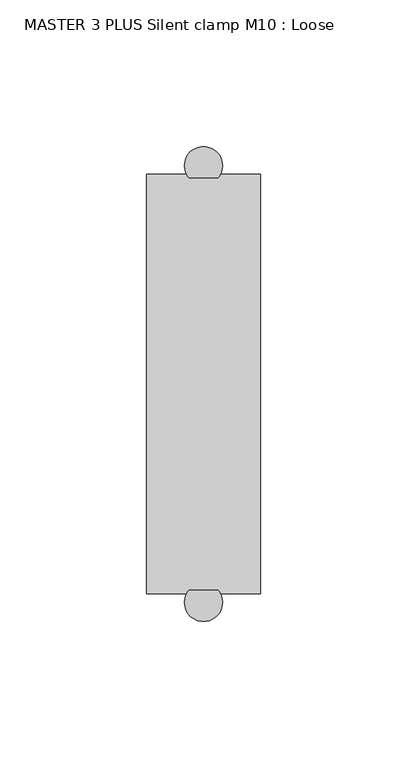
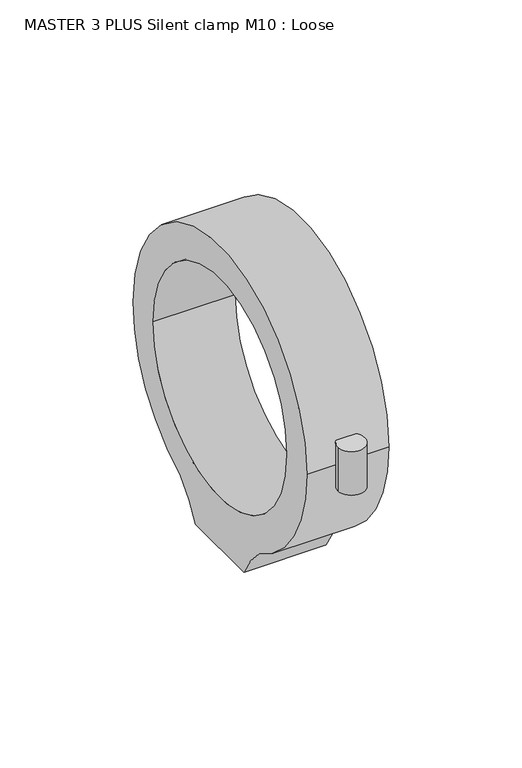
"""IFC4 building model written with IfcOpenShell, lengths in millimetres: valve geometry, MASTER 3 PLUS Silent clamp M10 : Loose."""

import ifcopenshell
import ifcopenshell.guid

model = None  # the IFC model being written
_history = None  # IfcOwnerHistory: only IFC2X3 demands one
_inside = {}  # id of a spatial element -> (the spatial element, [elements in it])
_under = {}  # id of a project, library or spatial element -> (it, [spatial elements below it])
_declared = {}  # id of a project -> (the project, [libraries it declares])
_typed = {}  # id of a type object -> (the type object, [elements of that type])
_made_of = {}  # id of a material, layer set ... -> (it, [elements and type objects made of it])


def new_model(schema):
    """Start an empty IFC model of exactly this schema.

    Asked for "IFC4X3", IfcOpenShell would pick the latest addendum, in which some entities
    have other attributes; the version numbers below select the first issue.
    IFC2X3 requires an IfcOwnerHistory on every rooted entity: one is made here for all.
    """
    global model, _history
    if schema == "IFC4X3":
        model = ifcopenshell.file(schema_version=(4, 3, 0, 0))
    else:
        model = ifcopenshell.file(schema=schema)
    _inside.clear()
    _under.clear()
    _declared.clear()
    _typed.clear()
    _made_of.clear()
    _history = None
    if model.schema == "IFC2X3":
        org = make("IfcOrganization", Name="unknown")
        user = make(
            "IfcPersonAndOrganization",
            ThePerson=make("IfcPerson", FamilyName="unknown"),
            TheOrganization=org,
        )
        app = make(
            "IfcApplication",
            ApplicationDeveloper=org,
            Version="unknown",
            ApplicationFullName="unknown",
            ApplicationIdentifier="unknown",
        )
        _history = make(
            "IfcOwnerHistory",
            OwningUser=user,
            OwningApplication=app,
            ChangeAction="ADDED",
            CreationDate=0,
        )
    return model


def make(cls, **values):
    """One entity of the class cls with the attributes given. An attribute that is None is left unset."""
    return model.create_entity(
        cls, **{name: value for name, value in values.items() if value is not None}
    )


def rooted(cls, **values):
    """An entity with a GlobalId (a new one), such as an element, a storey or a relation."""
    return make(cls, GlobalId=ifcopenshell.guid.new(), OwnerHistory=_history, **values)


def si_unit(unit_type, name, prefix=None):
    """IfcSIUnit, for example si_unit("LENGTHUNIT", "METRE", prefix="MILLI")."""
    return make("IfcSIUnit", UnitType=unit_type, Prefix=prefix, Name=name)


def assignment(units):
    """IfcUnitAssignment: the units of a project."""
    return None if units is None else make("IfcUnitAssignment", Units=units)


def point(xyz):
    """IfcCartesianPoint."""
    return None if xyz is None else make("IfcCartesianPoint", Coordinates=xyz)


def direction(xyz):
    """IfcDirection."""
    return None if xyz is None else make("IfcDirection", DirectionRatios=xyz)


def frame(location, z_axis=None, x_axis=None):
    """IfcAxis2Placement3D, a coordinate frame: its origin and axes. An axis left out is left unset."""
    return make(
        "IfcAxis2Placement3D",
        Location=point(location),
        Axis=direction(z_axis),
        RefDirection=direction(x_axis),
    )


def frame_2d(location, x_axis=None):
    """IfcAxis2Placement2D, a coordinate frame in the plane: its origin and x axis."""
    return make(
        "IfcAxis2Placement2D", Location=point(location), RefDirection=direction(x_axis)
    )


def origin():
    """The frame at (0, 0, 0) with its axes left unset."""
    return frame((0.0, 0.0, 0.0))


def origin_2d():
    """The frame at (0, 0) in the plane with its x axis left unset."""
    return frame_2d((0.0, 0.0))


def place(relative_to, where):
    """IfcLocalPlacement: puts the frame where relative to a parent placement (None: the world)."""
    return make(
        "IfcLocalPlacement", PlacementRelTo=relative_to, RelativePlacement=where
    )


def context(
    kind, dimensions, precision=None, world=None, true_north=None, identifier=None
):
    """IfcGeometricRepresentationContext, for example the 3D "Model" context."""
    return make(
        "IfcGeometricRepresentationContext",
        ContextIdentifier=identifier,
        ContextType=kind,
        CoordinateSpaceDimension=dimensions,
        Precision=precision,
        WorldCoordinateSystem=world,
        TrueNorth=true_north,
    )


def project(units=None, contexts=None):
    """IfcProject with its units and contexts."""
    return rooted(
        "IfcProject",
        Name="project",
        RepresentationContexts=contexts,
        UnitsInContext=assignment(units),
    )


def spatial(cls, under=None, at=None, **own):
    """A site, building, storey or space (cls), placed at a placement, below another one or the project."""
    s = rooted(cls, ObjectPlacement=at, **own)
    if under is not None:
        _under.setdefault(under.id(), (under, []))[1].append(s)
    return s


def polyline(points):
    """IfcPolyline through the points."""
    return make("IfcPolyline", Points=[point(p) for p in points])


def circle_curve(where, radius):
    """IfcCircle in the frame where."""
    return make("IfcCircle", Position=where, Radius=radius)


def trimmed(basis, trim1, trim2, sense, master):
    """IfcTrimmedCurve: the piece of a basis curve between two trims."""
    return make(
        "IfcTrimmedCurve",
        BasisCurve=basis,
        Trim1=trim1,
        Trim2=trim2,
        SenseAgreement=sense,
        MasterRepresentation=master,
    )


def segment(curve, same_sense, transition):
    """IfcCompositeCurveSegment."""
    return make(
        "IfcCompositeCurveSegment",
        Transition=transition,
        SameSense=same_sense,
        ParentCurve=curve,
    )


def composite_curve(segments, self_intersect=None):
    """IfcCompositeCurve: segments joined end to end."""
    return make("IfcCompositeCurve", Segments=segments, SelfIntersect=self_intersect)


def outline(outer, holes=None, kind="AREA"):
    """IfcArbitraryClosedProfileDef: a profile drawn as a closed curve; with holes, ...WithVoids."""
    if holes is None:
        return make("IfcArbitraryClosedProfileDef", ProfileType=kind, OuterCurve=outer)
    return make(
        "IfcArbitraryProfileDefWithVoids",
        ProfileType=kind,
        OuterCurve=outer,
        InnerCurves=holes,
    )


def extrude(swept, where, along, depth):
    """IfcExtrudedAreaSolid: the profile swept, set in the frame where, extruded along a direction by depth."""
    return make(
        "IfcExtrudedAreaSolid",
        SweptArea=swept,
        Position=where,
        ExtrudedDirection=direction(along),
        Depth=depth,
    )


def shape(context_of_items, identifier, shape_type, items):
    """IfcShapeRepresentation: the items that make up one representation, for example the "Body"."""
    return make(
        "IfcShapeRepresentation",
        ContextOfItems=context_of_items,
        RepresentationIdentifier=identifier,
        RepresentationType=shape_type,
        Items=items,
    )


def source(mapping_origin, context_of_items, identifier, shape_type, items):
    """IfcRepresentationMap: a shape defined once, which mapped items show again and again."""
    return make(
        "IfcRepresentationMap",
        MappingOrigin=mapping_origin,
        MappedRepresentation=shape(context_of_items, identifier, shape_type, items),
    )


def transform(
    local_origin,
    x_axis=None,
    y_axis=None,
    z_axis=None,
    scale=None,
    scale2=None,
    scale3=None,
    uniform=True,
):
    """IfcCartesianTransformationOperator3D, or its non-uniform kind. x_axis, y_axis, z_axis: its Axis1, 2, 3."""
    if uniform:
        return make(
            "IfcCartesianTransformationOperator3D",
            Axis1=direction(x_axis),
            Axis2=direction(y_axis),
            LocalOrigin=point(local_origin),
            Scale=scale,
            Axis3=direction(z_axis),
        )
    return make(
        "IfcCartesianTransformationOperator3DnonUniform",
        Axis1=direction(x_axis),
        Axis2=direction(y_axis),
        LocalOrigin=point(local_origin),
        Scale=scale,
        Axis3=direction(z_axis),
        Scale2=scale2,
        Scale3=scale3,
    )


def mapped(mapping_source, mapping_target):
    """IfcMappedItem: shows the shape of a source again, moved by a transform."""
    return make(
        "IfcMappedItem", MappingSource=mapping_source, MappingTarget=mapping_target
    )


def made_of(thing, what):
    """Note that an element or type object is made of a material, layer set ...; save() writes the relation."""
    if what is not None:
        _made_of.setdefault(what.id(), (what, []))[1].append(thing)
    return thing


def element(
    cls,
    number,
    at=None,
    inside=None,
    cuts=None,
    type_object=None,
    material=None,
    context=None,
    identifier="Body",
    shape_type=None,
    held_by="IfcProductDefinitionShape",
    body=None,
    shapes=None,
    **own,
):
    """One element of the class cls, such as IfcWall. Its Tag is "e" and its number.

    at: its placement. inside: the storey or other place that contains it. cuts: it is an
    opening in that element (IfcRelVoidsElement). A single representation is given by context,
    identifier, shape_type and body (its items); several are given by shapes. held_by: the class
    of the entity that holds the representations. save() writes the other relations.
    """
    e = rooted(cls, Tag="e%d" % number, ObjectPlacement=at, **own)
    if body is not None:
        shapes = [shape(context, identifier, shape_type, body)]
    if shapes is not None:
        e.Representation = make(held_by, Representations=shapes)
    if inside is not None:
        _inside.setdefault(inside.id(), (inside, []))[1].append(e)
    if cuts is not None:
        rooted(
            "IfcRelVoidsElement", RelatingBuildingElement=cuts, RelatedOpeningElement=e
        )
    if type_object is not None:
        _typed.setdefault(type_object.id(), (type_object, []))[1].append(e)
    return made_of(e, material)


def aggregate(whole, parts):
    """IfcRelAggregates: a whole, such as a stair, and the parts it consists of."""
    return rooted("IfcRelAggregates", RelatingObject=whole, RelatedObjects=parts)


def save(model, path):
    """Write the relations noted so far, then the file.

    IfcRelAggregates (storeys below a building ...), IfcRelContainedInSpatialStructure (elements
    in a storey), IfcRelDefinesByType, IfcRelAssociatesMaterial and IfcRelDeclares: one each for
    every whole, place, type object, material and project.
    """
    for whole, parts in _under.values():
        aggregate(whole, parts)
    for where, things in _inside.values():
        rooted(
            "IfcRelContainedInSpatialStructure",
            RelatedElements=things,
            RelatingStructure=where,
        )
    for kind, things in _typed.values():
        rooted("IfcRelDefinesByType", RelatedObjects=things, RelatingType=kind)
    for what, things in _made_of.values():
        rooted("IfcRelAssociatesMaterial", RelatedObjects=things, RelatingMaterial=what)
    for by, libraries in _declared.values():
        rooted("IfcRelDeclares", RelatingContext=by, RelatedDefinitions=libraries)
    model.write(path)


def master_3_plus_silent_clamp_m10_loose_7b94a6a7(model_context):
    return source(origin(), model_context, "Body", "SweptSolid", [
        extrude(outline(composite_curve([segment(trimmed(circle_curve(frame_2d((19.5, 74.5)), 6.5), [point((13.0, 74.5))], [point((26.0, 74.5))], False, "CARTESIAN"), True, "CONTINUOUS"), segment(trimmed(circle_curve(frame_2d((19.5, 74.5)), 6.5), [point((26.0, 74.5))], [point((13.0, 74.5))], False, "CARTESIAN"), True, "CONTINUOUS")], self_intersect=False)), frame((0.0, 0.0, -11.0), z_axis=(0.0, 0.0, 1.0), x_axis=(1.0, 0.0, 0.0)), (0.0, 0.0, 1.0), 22.0),
        extrude(outline(composite_curve([segment(trimmed(circle_curve(frame_2d((19.5, -74.5)), 6.5), [point((13.0, -74.5))], [point((26.0, -74.5))], False, "CARTESIAN"), True, "CONTINUOUS"), segment(trimmed(circle_curve(frame_2d((19.5, -74.5)), 6.5), [point((26.0, -74.5))], [point((13.0, -74.5))], False, "CARTESIAN"), True, "CONTINUOUS")], self_intersect=False)), frame((0.0, 0.0, -11.0), z_axis=(0.0, 0.0, 1.0), x_axis=(1.0, 0.0, 0.0)), (0.0, 0.0, 1.0), 22.0),
        extrude(outline(composite_curve([segment(trimmed(circle_curve(origin_2d(), 71.5), [point((-71.5, 0.0))], [point((71.5, 0.0))], False, "CARTESIAN"), True, "CONTINUOUS"), segment(trimmed(circle_curve(origin_2d(), 71.5), [point((71.5, 0.0))], [point((32.3195928, -63.7784754))], False, "CARTESIAN"), True, "CONTINUOUS"), segment(trimmed(circle_curve(frame_2d((73.3561953, -107.5505813)), 60.0), [point((32.3195928, -63.7784754))], [point((19.8, -80.5))], True, "CARTESIAN"), True, "CONTINUOUS"), segment(polyline([(19.8, -80.5), (-19.8, -80.5)]), True, "CONTINUOUS"), segment(trimmed(circle_curve(frame_2d((-73.3561953, -107.5505813)), 60.0), [point((-19.8, -80.5))], [point((-32.3195928, -63.7784754))], True, "CARTESIAN"), True, "CONTINUOUS"), segment(trimmed(circle_curve(origin_2d(), 71.5), [point((-32.3195928, -63.7784754))], [point((-71.5, 0.0))], False, "CARTESIAN"), True, "CONTINUOUS")], self_intersect=False), holes=[composite_curve([segment(trimmed(circle_curve(origin_2d(), 55.0), [point((-55.0, 0.0))], [point((55.0, 0.0))], True, "CARTESIAN"), True, "CONTINUOUS"), segment(trimmed(circle_curve(origin_2d(), 55.0), [point((55.0, 0.0))], [point((-55.0, 0.0))], True, "CARTESIAN"), True, "CONTINUOUS")], self_intersect=False)]), frame((0.0, 0.0, 0.0), z_axis=(1.0, 0.0, 0.0), x_axis=(0.0, 1.0, 0.0)), (0.0, 0.0, 1.0), 39.0),
    ])


if __name__ == "__main__":
    model = new_model("IFC4")
    model_context = context("Model", 3, world=origin())
    ifc_project = project(units=[si_unit("LENGTHUNIT", "METRE", prefix="MILLI")], contexts=[model_context])
    site = spatial("IfcSite", under=ifc_project)
    building = spatial("IfcBuilding", under=site)
    placement = place(None, origin())
    master_3_plus_silent_clamp_m10_loose_shape = master_3_plus_silent_clamp_m10_loose_7b94a6a7(model_context)
    element("IfcValve", 1, ObjectType="MASTER 3 PLUS Silent clamp M10 : Loose", at=placement, inside=building, context=model_context, shape_type="MappedRepresentation", body=[
        mapped(master_3_plus_silent_clamp_m10_loose_shape, transform((0.0, 0.0, 0.0), x_axis=(1.0, 0.0, 0.0), y_axis=(0.0, 1.0, 0.0), z_axis=(0.0, 0.0, 1.0))),
    ])
    save(model, "model.ifc")
